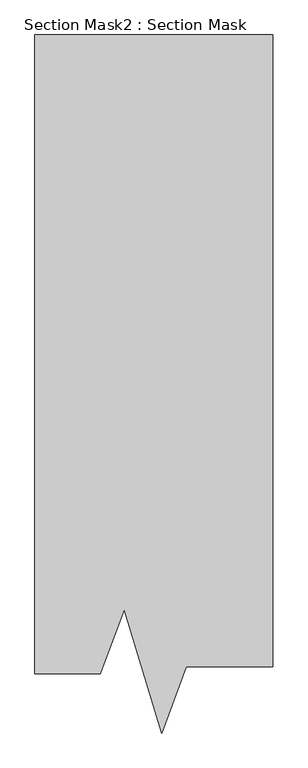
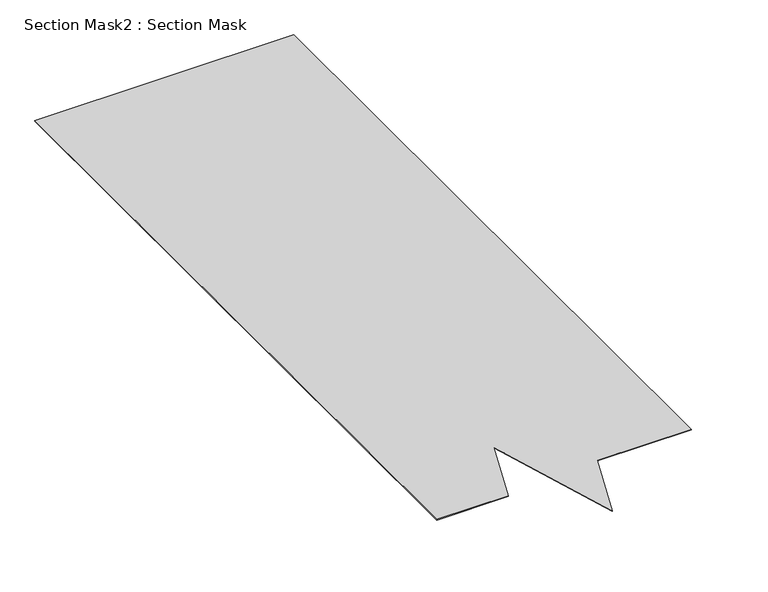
"""IFC4 building model written with IfcOpenShell, lengths in millimetres: proxy geometry, Section Mask2 : Section Mask."""

from ifc_helpers import new_model, si_unit, frame, origin, place, context, project, spatial, polyline, outline, extrude, source, transform, mapped, element, save


def section_mask2_section_mask_c10595b2(model_context):
    return source(origin(), model_context, "Body", "SweptSolid", [
        extrude(outline(polyline([(7940.7413927, 885.273934), (7752.687923, 885.273934), (7752.687923, 2719.4614947), (8435.2686205, 2719.4614947), (8435.2686205, 906.1224056), (8187.4305384, 906.1224056), (8117.0424454, 715.5030037), (8008.7938586, 1069.5681773), (7940.7413927, 885.273934)])), frame((0.0, 0.0, 45.0273345), z_axis=(0.0, 0.0, 1.0), x_axis=(1.0, 0.0, 0.0)), (0.0, 0.0, 1.0), 1.469501),
    ])


if __name__ == "__main__":
    model = new_model("IFC4")
    model_context = context("Model", 3, world=origin())
    ifc_project = project(units=[si_unit("LENGTHUNIT", "METRE", prefix="MILLI")], contexts=[model_context])
    site = spatial("IfcSite", under=ifc_project)
    building = spatial("IfcBuilding", under=site)
    placement = place(None, origin())
    section_mask2_section_mask_shape = section_mask2_section_mask_c10595b2(model_context)
    element("IfcBuildingElementProxy", 1, Name="Section Mask2 : Section Mask", ObjectType="Section Mask2 : Section Mask", at=placement, inside=building, context=model_context, shape_type="MappedRepresentation", body=[
        mapped(section_mask2_section_mask_shape, transform((0.0, 0.0, 0.0), x_axis=(1.0, 0.0, 0.0), y_axis=(0.0, 1.0, 0.0), z_axis=(0.0, 0.0, 1.0))),
    ])
    save(model, "model.ifc")
